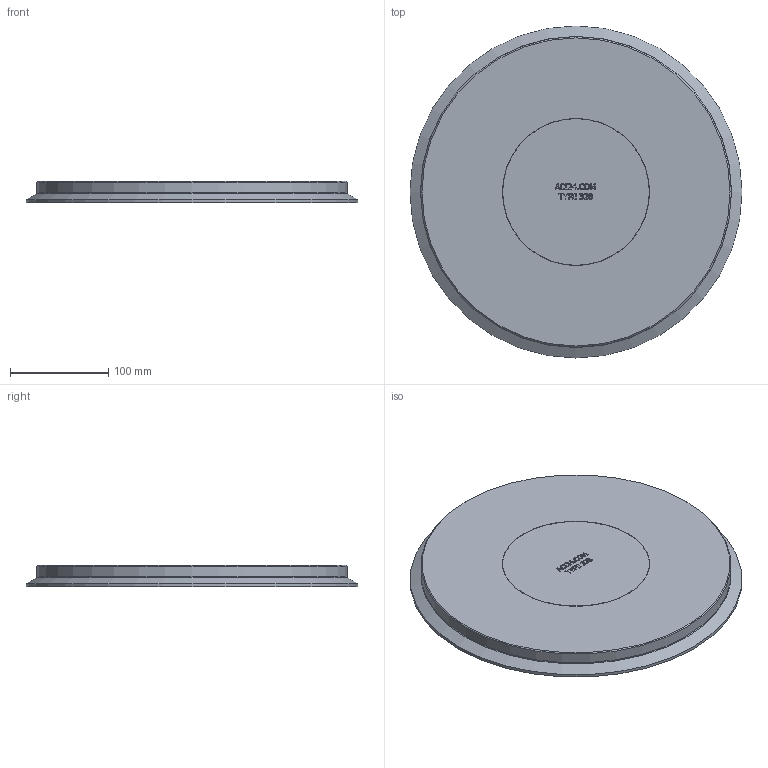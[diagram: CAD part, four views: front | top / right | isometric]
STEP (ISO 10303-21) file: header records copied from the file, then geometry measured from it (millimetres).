
FILE_DESCRIPTION(/* description */ ('ACI Typ 328 DN 300 PN 6'),/* implementation_level */ '2;1');
FILE_NAME(/* name */ 'C:\Users\willms\Desktop\ACI-328-300-6.stp',/* time_stamp */ '2020-09-01T16:45:50+02:00',/* author */ ('götz'),/* organization */ ('ACI Industriearmaturen GmbH info@aci24.com www.aci24.com'),/* preprocessor_version */ 'ST-DEVELOPER v16.1',/* originating_system */ 'Autodesk Inventor 2016',/* authorisation */ 'ACI Industriearmaturen GmbH info@aci24.com www.aci24.com');
FILE_SCHEMA (('CONFIG_CONTROL_DESIGN'));
Length unit declared in the file: centimetre
Products named in the file (1): ACI-328-300-6
Bounding box: 338.3 x 338.3 x 22 mm (x, y, z)
Volume: 1790833.8 mm3; surface area: 218674.3 mm2
Topology: 2 solids, 2 shells, 270 faces, 725 edges, 482 vertices
Faces by surface type: plane 147, bspline 114, cylinder 4, cone 4, torus 1
Full cylindrical faces by diameter (mm): 149.5 x1, 150 x1, 316 x1, 338.3 x1
Entity records: 8972 total; most frequent: CARTESIAN_POINT 2951, ORIENTED_EDGE 1432, DIRECTION 816, EDGE_CURVE 716, VERTEX_POINT 482, LINE 474, VECTOR 474, EDGE_LOOP 304
